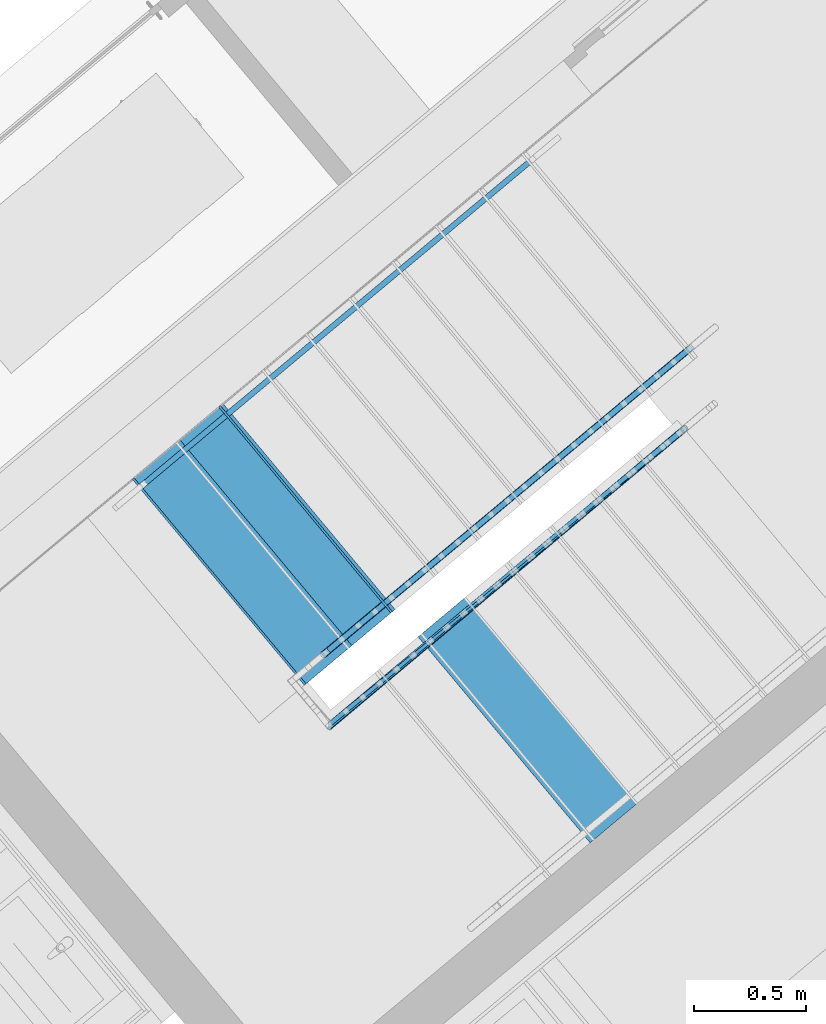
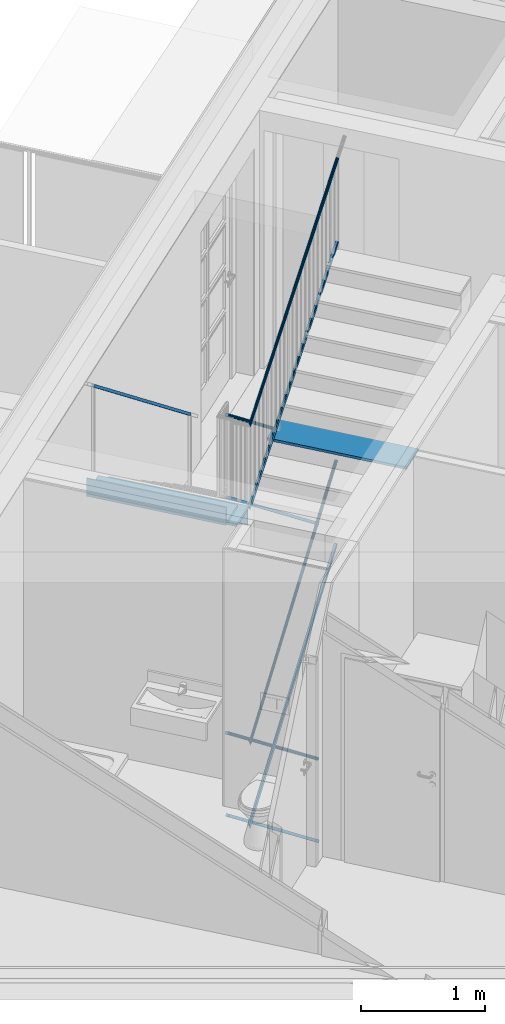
# One storey, part 34 of 75: 14 building element parts, 4 elements without a shape of their own.
"""IFC4 building model written with IfcOpenShell, lengths in metres."""

from ifc_helpers import new_model, entity, si_unit, converted_unit, derived_unit, direction, frame, origin_with_axes, place, context, subcontext, project, spatial, polygons, material, type_object, element, aggregate, save


model = new_model("IFC4")

# Units and contexts
model_context = context("Model", 3, precision=1e-05, world=origin_with_axes(), true_north=direction((0.0, 1.0)))
body_context = subcontext(model_context, "Body", "Model", "MODEL_VIEW")
ifc_project = project(units=[si_unit("LENGTHUNIT", "METRE"), si_unit("AREAUNIT", "SQUARE_METRE"), si_unit("VOLUMEUNIT", "CUBIC_METRE"), converted_unit("PLANEANGLEUNIT", "DEGREE", entity("IfcPlaneAngleMeasure", 0.0174532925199), si_unit("PLANEANGLEUNIT", "RADIAN"), dimensions=[0, 0, 0, 0, 0, 0, 0]), converted_unit("TIMEUNIT", "Year", entity("IfcTimeMeasure", 31556926.0), si_unit("TIMEUNIT", "SECOND"), dimensions=[0, 0, 1, 0, 0, 0, 0]), si_unit("MASSUNIT", "GRAM", prefix="KILO"), si_unit("THERMODYNAMICTEMPERATUREUNIT", "DEGREE_CELSIUS"), si_unit("LUMINOUSINTENSITYUNIT", "LUMEN"), si_unit("ENERGYUNIT", "JOULE", prefix="MEGA"), derived_unit("THERMALCONDUCTANCEUNIT", [(si_unit("POWERUNIT", "WATT"), 1), (si_unit("LENGTHUNIT", "METRE"), -1), (si_unit("THERMODYNAMICTEMPERATUREUNIT", "KELVIN"), -1)]), derived_unit("SPECIFICHEATCAPACITYUNIT", [(si_unit("ENERGYUNIT", "JOULE"), 1), (si_unit("MASSUNIT", "GRAM", prefix="KILO"), -1), (si_unit("THERMODYNAMICTEMPERATUREUNIT", "KELVIN"), -1)]), derived_unit("MASSDENSITYUNIT", [(si_unit("MASSUNIT", "GRAM", prefix="KILO"), 1), (si_unit("VOLUMEUNIT", "CUBIC_METRE"), -1)])], contexts=[model_context])

# Site, building, storey, space
site_placement = place(None, frame((-0.00153261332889, -0.00661245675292, 0.0), z_axis=(0.0, 0.0, 1.0), x_axis=(1.0, 0.0, 0.0)))
site = spatial("IfcSite", under=ifc_project, at=site_placement, Name="Gelände", CompositionType="ELEMENT")
building_placement = place(site_placement, origin_with_axes())
building = spatial("IfcBuilding", under=site, at=building_placement, Name="Gebäude", CompositionType="ELEMENT")
storey_placement = place(building_placement, frame((0.0, 0.0, -0.22), z_axis=(0.0, 0.0, 1.0), x_axis=(1.0, 0.0, 0.0)))
storey = spatial("IfcBuildingStorey", under=building, at=storey_placement, Name="EG", CompositionType="ELEMENT", Elevation=-0.22)
space_1_placement = place(storey_placement, frame((-1.16508896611, 24.7530172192, 0.22), z_axis=(0.0, 0.0, 1.0), x_axis=(0.641170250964, -0.76739866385, 0.0)))
space_1 = spatial("IfcSpace", under=storey, at=space_1_placement, CompositionType="ELEMENT", PredefinedType="NOTDEFINED")

# Railing, building element parts
railing_type = type_object("IfcRailingType", Name="Geländerart", PredefinedType="NOTDEFINED")
railing_1_placement = place(space_1_placement, frame((1.19553434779, -1.19750858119e-08, -0.17), z_axis=(0.0, 0.0, 1.0), x_axis=(0.641170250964, 0.76739866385, 0.0)))
railing_1 = element("IfcRailing", 1, at=railing_1_placement, inside=space_1, type_object=railing_type, Name="Geländer - 001", PredefinedType="NOTDEFINED")
ifc_material = material(Name="BEKLEIDUNG")
building_element_part_1_placement = place(railing_1_placement, origin_with_axes())
building_element_part_1 = element("IfcBuildingElementPart", 2, at=building_element_part_1_placement, material=ifc_material, Name="BEKLEIDUNG", PredefinedType="NOTDEFINED", context=body_context, shape_type="Tessellation", body=[
    polygons([(-0.0295187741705, 0.0209453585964, 0.88817063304), (-0.0284358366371, 0.0221471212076, 0.890224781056), (-1.65968848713, -1.34078287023, 2.5475849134), (-1.66154123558, -1.34262781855, 2.54631289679), (-0.0308939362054, 0.0200933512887, 0.886116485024), (-0.0325195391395, 0.0196169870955, 0.884124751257), (-0.03434618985, 0.0195307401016, 0.88225594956), (-0.0363183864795, 0.0198372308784, 0.880566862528), (-0.0383762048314, 0.0205271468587, 0.879108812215), (-0.0404571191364, 0.0215795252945, 0.877926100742), (-0.0424979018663, 0.0229623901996, 0.877054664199), (-0.0444365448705, 0.0246337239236, 0.876520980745), (-0.0462141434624, 0.026542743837, 0.87634126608), (-0.0477766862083, 0.0286314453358, 0.876520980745), (-0.0490766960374, 0.030836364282, 0.877054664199), (-0.0500746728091, 0.0330905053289, 0.877926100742), (-0.050740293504, 0.0353253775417, 0.879108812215), (-0.0510533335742, 0.0374730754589, 0.880566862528), (-0.0510042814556, 0.0394683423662, 0.88225594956), (-0.0505946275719, 0.0412505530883, 0.884124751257), (-0.0498368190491, 0.0427655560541, 0.886116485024), (-0.0487538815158, 0.0439673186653, 0.88817063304), (-0.0473787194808, 0.0448193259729, 0.890224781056), (-0.0457531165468, 0.0452956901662, 0.892216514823), (-0.0439264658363, 0.04538193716, 0.89408531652), (-0.0419542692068, 0.0450754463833, 0.895774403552), (-0.0398964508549, 0.044385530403, 0.897232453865), (-0.0378155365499, 0.0433331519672, 0.898415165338), (-0.03577475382, 0.0419502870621, 0.899286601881), (-0.0338361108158, 0.0402789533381, 0.899820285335), (-0.0320585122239, 0.0383699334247, 0.9), (-0.030495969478, 0.0362812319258, 0.899820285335), (-0.0291959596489, 0.0340763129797, 0.899286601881), (-0.0281979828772, 0.0318221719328, 0.898415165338), (-0.0275323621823, 0.02958729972, 0.897232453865), (-0.0272193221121, 0.0274396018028, 0.895774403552), (-0.0272683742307, 0.0254443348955, 0.89408531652), (-0.0276780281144, 0.0236621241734, 0.892216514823), (-1.658184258, -1.33864422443, 2.54881828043), (-1.65707425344, -1.33627686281, 2.54997552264), (-1.65639220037, -1.33375271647, 2.55102147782), (-1.65615882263, -1.33114848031, 2.55192436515), (-1.65638121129, -1.32854328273, 2.55265675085), (-1.65705260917, -1.32601628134, 2.55319638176), (-1.6581526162, -1.3236442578, 2.55352686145), (-1.65964780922, -1.32149928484, 2.55363814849), (-1.66149275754, -1.31964653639, 2.55352686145), (-1.66363140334, -1.31814230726, 2.55319638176), (-1.66599876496, -1.31703230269, 2.55265675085), (-1.6685229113, -1.31635024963, 2.55192436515), (-1.67112714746, -1.31611687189, 2.55102147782), (-1.67373234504, -1.31633926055, 2.54997552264), (-1.67625934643, -1.31701065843, 2.54881828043), (-1.67863136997, -1.31811066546, 2.5475849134), (-1.68077634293, -1.31960585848, 2.54631289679), (-1.68262909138, -1.3214508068, 2.54504088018), (-1.68413332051, -1.3235894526, 2.54380751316), (-1.68524332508, -1.32595681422, 2.54265027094), (-1.68592537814, -1.32848096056, 2.54160431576), (-1.68615875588, -1.33108519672, 2.54070142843), (-1.68593636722, -1.3336903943, 2.53996904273), (-1.68526496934, -1.33621739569, 2.53942941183), (-1.68416496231, -1.33858941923, 2.53909893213), (-1.68266976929, -1.34073439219, 2.53898764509), (-1.68082482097, -1.34258714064, 2.53909893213), (-1.67868617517, -1.34409136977, 2.53942941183), (-1.67631881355, -1.34520137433, 2.53996904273), (-1.67379466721, -1.3458834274, 2.54070142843), (-1.67119043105, -1.34611680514, 2.54160431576), (-1.66858523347, -1.34589441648, 2.54265027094), (-1.66605823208, -1.3452230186, 2.54380751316), (-1.66368620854, -1.34412301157, 2.54504088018)], [[[1, 2, 3, 4]], [[1, 5, 6, 7, 8, 9, 10, 11, 12, 13, 14, 15, 16, 17, 18, 19, 20, 21, 22, 23, 24, 25, 26, 27, 28, 29, 30, 31, 32, 33, 34, 35, 36, 37, 38, 2]], [[2, 38, 39, 3]], [[4, 3, 39, 40, 41, 42, 43, 44, 45, 46, 47, 48, 49, 50, 51, 52, 53, 54, 55, 56, 57, 58, 59, 60, 61, 62, 63, 64, 65, 66, 67, 68, 69, 70, 71, 72]], [[5, 1, 4, 72]], [[6, 5, 72, 71]], [[7, 6, 71, 70]], [[8, 7, 70, 69]], [[9, 8, 69, 68]], [[10, 9, 68, 67]], [[11, 10, 67, 66]], [[12, 11, 66, 65]], [[13, 12, 65, 64]], [[14, 13, 64, 63]], [[15, 14, 63, 62]], [[16, 15, 62, 61]], [[17, 16, 61, 60]], [[18, 17, 60, 59]], [[19, 18, 59, 58]], [[20, 19, 58, 57]], [[21, 20, 57, 56]], [[22, 21, 56, 55]], [[23, 22, 55, 54]], [[24, 23, 54, 53]], [[25, 24, 53, 52]], [[26, 25, 52, 51]], [[27, 26, 51, 50]], [[28, 27, 50, 49]], [[29, 28, 49, 48]], [[30, 29, 48, 47]], [[31, 30, 47, 46]], [[32, 31, 46, 45]], [[33, 32, 45, 44]], [[34, 33, 44, 43]], [[35, 34, 43, 42]], [[36, 35, 42, 41]], [[37, 36, 41, 40]], [[38, 37, 40, 39]]], closed=True),
])
building_element_part_2_placement = place(railing_1_placement, origin_with_axes())
building_element_part_2 = element("IfcBuildingElementPart", 3, at=building_element_part_2_placement, material=ifc_material, Name="BEKLEIDUNG", PredefinedType="NOTDEFINED", context=body_context, shape_type="Tessellation", body=[
    polygons([(-0.0341749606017, 0.0528904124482, 0.0798578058), (-0.0459713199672, 0.0430344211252, 0.0601421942), (-1.67725492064, -1.31992142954, 1.71753377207), (-1.65806995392, -1.30389217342, 1.7297425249), (-0.0181457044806, 0.0337054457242, 0.0798578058), (-0.029942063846, 0.0238494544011, 0.0601421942), (-1.66122566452, -1.33910639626, 1.71753377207), (-1.6420406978, -1.32307714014, 1.7297425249)], [[[1, 2, 3, 4]], [[1, 5, 6, 2]], [[2, 6, 7, 3]], [[4, 3, 7, 8]], [[5, 1, 4, 8]], [[6, 5, 8, 7]]], closed=True),
])
building_element_part_3_placement = place(railing_1_placement, origin_with_axes())
building_element_part_3 = element("IfcBuildingElementPart", 4, at=building_element_part_3_placement, material=ifc_material, Name="BEKLEIDUNG", PredefinedType="NOTDEFINED", context=body_context, shape_type="Tessellation", body=[
    polygons([(-1.63742845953, -1.63075810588, 2.62537536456), (-1.63846858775, -1.63088446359, 2.62789734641), (-0.0630386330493, -0.30687497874, 3.89943593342), (-1.63648900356, -1.63122206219, 2.62285338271), (-1.63567876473, -1.63226223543, 2.62040803), (-1.63502236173, -1.63384702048, 2.61811360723), (-1.63453973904, -1.63592826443, 2.61603982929), (-1.63424556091, -1.63844272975, 2.61424970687), (-1.63414876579, -1.64131401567, 2.61279763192), (-1.63425229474, -1.64445487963, 2.61172772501), (-1.63455300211, -1.64776988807, 2.61107249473), (-1.63504175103, -1.65115831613, 2.61085184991), (-1.63570369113, -1.65451720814, 2.61107249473), (-1.63651870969, -1.65774450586, 2.61172772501), (-1.63746204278, -1.66074214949, 2.61279763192), (-1.63850502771, -1.66341905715, 2.61424970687), (-1.63961597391, -1.66569389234, 2.61603982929), (-1.64076112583, -1.66749753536, 2.61811360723), (-1.64190568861, -1.66877518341, 2.62040803), (-1.64301488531, -1.66948801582, 2.62285338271), (-1.64405501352, -1.66961437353, 2.62537536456), (-1.64499446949, -1.66915041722, 2.62789734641), (-1.64580470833, -1.66811024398, 2.63034269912), (-1.64646111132, -1.66652545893, 2.63263712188), (-1.64694373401, -1.66444421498, 2.63471089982), (-1.64723791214, -1.66192974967, 2.63650102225), (-1.64733470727, -1.65905846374, 2.6379530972), (-1.64723117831, -1.65591759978, 2.6390230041), (-1.64693047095, -1.65260259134, 2.63967823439), (-1.64644172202, -1.64921416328, 2.63989887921), (-1.64577978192, -1.64585527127, 2.63967823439), (-1.64496476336, -1.64262797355, 2.6390230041), (-1.64402143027, -1.63963032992, 2.6379530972), (-1.64297844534, -1.63695342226, 2.63650102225), (-1.64186749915, -1.63467858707, 2.63471089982), (-1.64072234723, -1.63287494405, 2.63263712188), (-1.63957778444, -1.631597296, 2.63034269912), (-0.0636185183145, -0.30824141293, 3.90158839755), (-0.0621391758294, -0.305826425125, 3.89721601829), (-0.0609474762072, -0.305127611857, 3.89499610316), (-0.0594997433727, -0.304799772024, 3.89284363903), (-0.0578399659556, -0.304852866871, 3.89082402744), (-0.0560185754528, -0.305285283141, 3.88899863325), (-0.054090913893, -0.306083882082, 3.88742292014), (-0.0521155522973, -0.30722439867, 3.88614476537), (-0.0501525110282, -0.308672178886, 3.88520300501), (-0.0482614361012, -0.310383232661, 3.88462625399), (-0.0464997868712, -0.312305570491, 3.88443203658), (-0.0449210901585, -0.314380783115, 3.88462625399), (-0.043573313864, -0.316545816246, 3.88520300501), (-0.0424974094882, -0.318734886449, 3.88614476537), (-0.0417260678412, -0.320881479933, 3.88742292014), (-0.0412827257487, -0.322920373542, 3.88899863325), (-0.0411808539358, -0.324789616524, 3.89082402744), (-0.041423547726, -0.326432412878, 3.89284363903), (-0.0420034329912, -0.327798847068, 3.89499610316), (-0.0429028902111, -0.328847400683, 3.89721601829), (-0.0440945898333, -0.329546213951, 3.89943593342), (-0.0455423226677, -0.329874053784, 3.90158839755), (-0.0472021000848, -0.329820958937, 3.90360800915), (-0.0490234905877, -0.329388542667, 3.90543340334), (-0.0509511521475, -0.328589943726, 3.90700911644), (-0.0529265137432, -0.327449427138, 3.90828727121), (-0.0548895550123, -0.326001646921, 3.90922903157), (-0.0567806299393, -0.324290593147, 3.90980578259), (-0.0585422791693, -0.322368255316, 3.91), (-0.0601209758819, -0.320293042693, 3.90980578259), (-0.0614687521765, -0.318128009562, 3.90922903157), (-0.0625446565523, -0.315938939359, 3.90828727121), (-0.0633159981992, -0.313792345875, 3.90700911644), (-0.0637593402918, -0.311753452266, 3.90543340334), (-0.0638612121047, -0.309884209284, 3.90360800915)], [[[1, 2, 3]], [[1, 4, 5, 6, 7, 8, 9, 10, 11, 12, 13, 14, 15, 16, 17, 18, 19, 20, 21, 22, 23, 24, 25, 26, 27, 28, 29, 30, 31, 32, 33, 34, 35, 36, 37, 2]], [[2, 38, 3]], [[1, 3, 39]], [[4, 1, 39]], [[5, 4, 40]], [[6, 5, 41]], [[7, 6, 42]], [[8, 7, 43]], [[9, 8, 44]], [[10, 9, 45]], [[11, 10, 46]], [[12, 11, 47]], [[13, 12, 48]], [[14, 13, 49]], [[15, 14, 50]], [[16, 15, 51]], [[17, 16, 52]], [[18, 17, 53]], [[19, 18, 54]], [[20, 19, 55]], [[21, 20, 56]], [[22, 21, 57]], [[23, 22, 58]], [[24, 23, 59]], [[25, 24, 60]], [[26, 25, 61]], [[27, 26, 62]], [[28, 27, 63]], [[29, 28, 64]], [[30, 29, 65]], [[31, 30, 66]], [[32, 31, 67]], [[33, 32, 68]], [[34, 33, 69]], [[35, 34, 70]], [[36, 35, 71]], [[37, 36, 72]], [[2, 37, 38]], [[39, 3, 38, 72, 71, 70, 69, 68, 67, 66, 65, 64, 63, 62, 61, 60, 59, 58, 57, 56, 55, 54, 53, 52, 51, 50, 49, 48, 47, 46, 45, 44, 43, 42, 41, 40]], [[4, 39, 40]], [[5, 40, 41]], [[6, 41, 42]], [[7, 42, 43]], [[8, 43, 44]], [[9, 44, 45]], [[10, 45, 46]], [[11, 46, 47]], [[12, 47, 48]], [[13, 48, 49]], [[14, 49, 50]], [[15, 50, 51]], [[16, 51, 52]], [[17, 52, 53]], [[18, 53, 54]], [[19, 54, 55]], [[20, 55, 56]], [[21, 56, 57]], [[22, 57, 58]], [[23, 58, 59]], [[24, 59, 60]], [[25, 60, 61]], [[26, 61, 62]], [[27, 62, 63]], [[28, 63, 64]], [[29, 64, 65]], [[30, 65, 66]], [[31, 66, 67]], [[32, 67, 68]], [[33, 68, 69]], [[34, 69, 70]], [[35, 70, 71]], [[36, 71, 72]], [[37, 72, 38]]], closed=True),
])
building_element_part_4_placement = place(railing_1_placement, origin_with_axes())
building_element_part_4 = element("IfcBuildingElementPart", 5, at=building_element_part_4_placement, material=ifc_material, Name="BEKLEIDUNG", PredefinedType="NOTDEFINED", context=body_context, shape_type="Tessellation", body=[
    polygons([(-1.6539527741, -1.66459421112, 1.82200180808), (-1.64445279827, -1.66621433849, 1.79779595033), (-0.0455094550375, -0.327767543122, 3.06934668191), (-1.64843064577, -1.63221398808, 1.82200180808), (-1.63893066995, -1.63383411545, 1.79779595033), (-0.0615396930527, -0.308583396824, 3.06934668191), (-0.0555448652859, -0.336153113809, 3.09065331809), (-0.0715751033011, -0.316968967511, 3.09065331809)], [[[1, 2, 3]], [[1, 4, 5, 2]], [[2, 6, 3]], [[1, 3, 7]], [[4, 1, 7]], [[5, 4, 8]], [[2, 5, 6]], [[7, 3, 6, 8]], [[4, 7, 8]], [[5, 8, 6]]], closed=True),
])
aggregate(railing_1, [building_element_part_1, building_element_part_2, building_element_part_3, building_element_part_4])

# Railing, building element part
railing_2_placement = place(space_1_placement, frame((-0.00446565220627, -2.37996111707e-09, -0.17), z_axis=(0.0, 0.0, 1.0), x_axis=(0.641170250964, 0.76739866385, 0.0)))
railing_2 = element("IfcRailing", 6, at=railing_2_placement, inside=space_1, type_object=railing_type, Name="Geländer - 001", PredefinedType="NOTDEFINED")
building_element_part_5_placement = place(railing_2_placement, origin_with_axes())
building_element_part_5 = element("IfcBuildingElementPart", 7, at=building_element_part_5_placement, material=ifc_material, Name="BEKLEIDUNG", PredefinedType="NOTDEFINED", context=body_context, shape_type="Tessellation", body=[
    polygons([(0.0240438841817, -0.0287774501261, 0.9), (0.0122290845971, -0.0386488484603, 0.880303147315), (-1.72609254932, -1.49103618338, 2.65089138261), (-1.71427774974, -1.48116478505, 2.67058823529), (0.0400731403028, -0.0479624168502, 0.9), (0.0282583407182, -0.0578338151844, 0.880303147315), (-1.7100632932, -1.5102211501, 2.65089138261), (-1.69824849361, -1.50034975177, 2.67058823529)], [[[1, 2, 3, 4]], [[1, 5, 6, 2]], [[2, 6, 7, 3]], [[4, 3, 7, 8]], [[5, 1, 4, 8]], [[6, 5, 8, 7]]], closed=True),
])
aggregate(railing_2, [building_element_part_5])

# Railing, building element parts
railing_3_placement = place(space_1_placement, frame((1.1955343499, 0.255237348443, -3.3), z_axis=(0.0, 0.0, 1.0), x_axis=(0.641170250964, 0.76739866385, 0.0)))
railing_3 = element("IfcRailing", 8, at=railing_3_placement, inside=space_1, type_object=railing_type, Name="Geländer - 001", PredefinedType="NOTDEFINED")
building_element_part_6_placement = place(railing_3_placement, origin_with_axes())
building_element_part_6 = element("IfcBuildingElementPart", 9, at=building_element_part_6_placement, material=ifc_material, Name="BEKLEIDUNG", PredefinedType="NOTDEFINED", context=body_context, shape_type="Tessellation", body=[
    polygons([(-0.225377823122, -0.142697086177, 0.88816072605), (-0.224296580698, -0.141496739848, 0.890216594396), (-1.85555729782, -1.50443347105, 2.54391411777), (-1.85741004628, -1.50627841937, 2.54264036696), (-0.226751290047, -0.143547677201, 0.886104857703), (-0.228375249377, -0.144022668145, 0.884111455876), (-0.230200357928, -0.144107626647, 0.882241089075), (-0.232171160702, -0.143799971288, 0.880550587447), (-0.234227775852, -0.143109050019, 0.87909131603), (-0.236307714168, -0.142055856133, 0.877907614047), (-0.238347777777, -0.140672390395, 0.877035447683), (-0.240285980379, -0.139000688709, 0.876501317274), (-0.242063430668, -0.137091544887, 0.8763214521), (-0.243626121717, -0.135002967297, 0.876501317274), (-0.244926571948, -0.132798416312, 0.877035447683), (-0.24592526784, -0.130544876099, 0.877907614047), (-0.246591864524, -0.128310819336, 0.87909131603), (-0.246906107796, -0.126164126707, 0.880550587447), (-0.246858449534, -0.124170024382, 0.882241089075), (-0.246450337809, -0.122389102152, 0.884111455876), (-0.245694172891, -0.120875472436, 0.886104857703), (-0.244612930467, -0.119675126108, 0.88816072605), (-0.243239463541, -0.118824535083, 0.890216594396), (-0.241615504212, -0.11834954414, 0.892209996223), (-0.23979039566, -0.118264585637, 0.894080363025), (-0.237819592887, -0.118572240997, 0.895770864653), (-0.235762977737, -0.119263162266, 0.89723013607), (-0.233683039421, -0.120316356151, 0.898413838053), (-0.231642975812, -0.12169982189, 0.899286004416), (-0.22970477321, -0.123371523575, 0.899820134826), (-0.227927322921, -0.125280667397, 0.9), (-0.226364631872, -0.127369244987, 0.899820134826), (-0.225064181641, -0.129573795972, 0.899286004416), (-0.224065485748, -0.131827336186, 0.898413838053), (-0.223398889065, -0.134061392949, 0.89723013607), (-0.223084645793, -0.136208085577, 0.895770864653), (-0.223132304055, -0.138202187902, 0.894080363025), (-0.223540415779, -0.139983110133, 0.892209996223), (-1.8540530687, -1.50229482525, 2.5451491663), (-1.85294306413, -1.49992746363, 2.54630798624), (-1.85226101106, -1.49740331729, 2.54735536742), (-1.85202763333, -1.49479908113, 2.5482594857), (-1.85225002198, -1.49219388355, 2.5489928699), (-1.85292141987, -1.48966688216, 2.54953323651), (-1.8540214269, -1.48729485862, 2.54986416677), (-1.85551661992, -1.48514988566, 2.54997560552), (-1.85736156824, -1.48329713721, 2.54986416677), (-1.85950021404, -1.48179290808, 2.54953323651), (-1.86186757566, -1.48068290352, 2.5489928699), (-1.864391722, -1.48000085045, 2.5482594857), (-1.86699595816, -1.47976747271, 2.54735536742), (-1.86960115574, -1.47998986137, 2.54630798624), (-1.87212815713, -1.48066125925, 2.5451491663), (-1.87450018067, -1.48176126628, 2.54391411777), (-1.87664515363, -1.4832564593, 2.54264036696), (-1.87849790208, -1.48510140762, 2.54136661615), (-1.88000213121, -1.48724005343, 2.54013156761), (-1.88111213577, -1.48960741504, 2.53897274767), (-1.88179418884, -1.49213156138, 2.53792536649), (-1.88202756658, -1.49473579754, 2.53702124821), (-1.88180517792, -1.49734099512, 2.53628786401), (-1.88113378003, -1.49986799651, 2.5357474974), (-1.880033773, -1.50224002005, 2.53541656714), (-1.87853857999, -1.50438499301, 2.53530512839), (-1.87669363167, -1.50623774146, 2.53541656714), (-1.87455498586, -1.50774197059, 2.5357474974), (-1.87218762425, -1.50885197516, 2.53628786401), (-1.86966347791, -1.50953402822, 2.53702124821), (-1.86705924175, -1.50976740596, 2.53792536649), (-1.86445404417, -1.5095450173, 2.53897274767), (-1.86192704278, -1.50887361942, 2.54013156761), (-1.85955501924, -1.50777361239, 2.54136661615)], [[[1, 2, 3, 4]], [[1, 5, 6, 7, 8, 9, 10, 11, 12, 13, 14, 15, 16, 17, 18, 19, 20, 21, 22, 23, 24, 25, 26, 27, 28, 29, 30, 31, 32, 33, 34, 35, 36, 37, 38, 2]], [[2, 38, 39, 3]], [[4, 3, 39, 40, 41, 42, 43, 44, 45, 46, 47, 48, 49, 50, 51, 52, 53, 54, 55, 56, 57, 58, 59, 60, 61, 62, 63, 64, 65, 66, 67, 68, 69, 70, 71, 72]], [[5, 1, 4, 72]], [[6, 5, 72, 71]], [[7, 6, 71, 70]], [[8, 7, 70, 69]], [[9, 8, 69, 68]], [[10, 9, 68, 67]], [[11, 10, 67, 66]], [[12, 11, 66, 65]], [[13, 12, 65, 64]], [[14, 13, 64, 63]], [[15, 14, 63, 62]], [[16, 15, 62, 61]], [[17, 16, 61, 60]], [[18, 17, 60, 59]], [[19, 18, 59, 58]], [[20, 19, 58, 57]], [[21, 20, 57, 56]], [[22, 21, 56, 55]], [[23, 22, 55, 54]], [[24, 23, 54, 53]], [[25, 24, 53, 52]], [[26, 25, 52, 51]], [[27, 26, 51, 50]], [[28, 27, 50, 49]], [[29, 28, 49, 48]], [[30, 29, 48, 47]], [[31, 30, 47, 46]], [[32, 31, 46, 45]], [[33, 32, 45, 44]], [[34, 33, 44, 43]], [[35, 34, 43, 42]], [[36, 35, 42, 41]], [[37, 36, 41, 40]], [[38, 37, 40, 39]]], closed=True),
])
building_element_part_7_placement = place(railing_3_placement, origin_with_axes())
building_element_part_7 = element("IfcBuildingElementPart", 10, at=building_element_part_7_placement, material=ifc_material, Name="BEKLEIDUNG", PredefinedType="NOTDEFINED", context=body_context, shape_type="Tessellation", body=[
    polygons([(-0.230051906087, -0.110766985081, 0.0798660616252), (-0.241831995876, -0.120609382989, 0.0601339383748), (-1.87312373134, -1.48357203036, 1.71386290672), (-1.85393876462, -1.46754277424, 1.72608830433), (-0.214022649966, -0.129951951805, 0.0798660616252), (-0.225802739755, -0.139794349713, 0.0601339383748), (-1.85709447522, -1.50275699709, 1.71386290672), (-1.8379095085, -1.48672774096, 1.72608830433)], [[[1, 2, 3, 4]], [[1, 5, 6, 2]], [[2, 6, 7, 3]], [[4, 3, 7, 8]], [[5, 1, 4, 8]], [[6, 5, 8, 7]]], closed=True),
])
building_element_part_8_placement = place(railing_3_placement, origin_with_axes())
building_element_part_8 = element("IfcBuildingElementPart", 11, at=building_element_part_8_placement, material=ifc_material, Name="BEKLEIDUNG", PredefinedType="NOTDEFINED", context=body_context, shape_type="Tessellation", body=[
    polygons([(-1.8322830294, -1.79508964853, 2.61672621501), (-1.83344295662, -1.79516516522, 2.61923212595), (-0.280788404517, -0.488809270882, 4.06989400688), (-1.83123457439, -1.79559152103, 2.61422030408), (-1.83032944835, -1.79665553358, 2.61179053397), (-1.82959515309, -1.7982493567, 2.60951073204), (-1.8290539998, -1.80032456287, 2.60745016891), (-1.82872243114, -1.80281809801, 2.60567145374), (-1.82861052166, -1.80565419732, 2.6042286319), (-1.82872167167, -1.80874668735, 2.6031655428), (-1.82905250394, -1.81200160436, 2.60251448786), (-1.8295929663, -1.81532004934, 2.60229524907), (-1.83032663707, -1.81860119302, 2.60251448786), (-1.83123122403, -1.82174533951, 2.6031655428), (-1.83227924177, -1.82465695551, 2.6042286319), (-1.8334388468, -1.82724757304, 2.60567145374), (-1.8346748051, -1.8294384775, 2.60745016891), (-1.83594956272, -1.83116309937, 2.60951073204), (-1.83722438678, -1.83236903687, 2.61179053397), (-1.8384605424, -1.83301964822, 2.61422030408), (-1.83962046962, -1.83309516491, 2.61672621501), (-1.84066892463, -1.83259329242, 2.61923212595), (-1.84157405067, -1.83152927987, 2.62166189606), (-1.84230834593, -1.82993545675, 2.62394169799), (-1.84284949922, -1.82786025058, 2.62600226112), (-1.84318106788, -1.82536671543, 2.62778097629), (-1.84329297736, -1.82253061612, 2.62922379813), (-1.84318182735, -1.81943812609, 2.63028688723), (-1.84285099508, -1.81618320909, 2.63093794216), (-1.84231053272, -1.81286476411, 2.63115718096), (-1.84157686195, -1.80958362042, 2.63093794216), (-1.84067227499, -1.80643947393, 2.63028688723), (-1.83962425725, -1.80352785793, 2.62922379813), (-1.83846465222, -1.8009372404, 2.62778097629), (-1.83722869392, -1.79874633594, 2.62600226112), (-1.8359539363, -1.79702171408, 2.62394169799), (-1.83467911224, -1.79581577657, 2.62166189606), (-0.281476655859, -0.49026625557, 4.071953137), (-0.279777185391, -0.48766732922, 4.06777035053), (-0.278473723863, -0.486875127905, 4.06564669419), (-0.276917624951, -0.486456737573, 4.06358756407), (-0.275156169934, -0.486424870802, 4.0616555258), (-0.273242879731, -0.486780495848, 4.05990928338), (-0.271235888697, -0.487512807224, 4.05840189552), (-0.269196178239, -0.488599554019, 4.05717916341), (-0.267185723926, -0.490007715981, 4.05627823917), (-0.265265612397, -0.491694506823, 4.05572649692), (-0.263494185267, -0.493608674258, 4.05554070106), (-0.261925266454, -0.495692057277, 4.05572649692), (-0.260606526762, -0.497881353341, 4.05627823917), (-0.25957803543, -0.500110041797, 4.05717916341), (-0.258871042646, -0.502310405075, 4.05840189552), (-0.258507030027, -0.504415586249, 4.05990928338), (-0.258497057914, -0.506361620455, 4.0616555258), (-0.258841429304, -0.508089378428, 4.06358756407), (-0.259529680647, -0.509546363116, 4.06564669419), (-0.260540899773, -0.510688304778, 4.06777035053), (-0.261844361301, -0.511480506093, 4.06989400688), (-0.263400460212, -0.511898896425, 4.071953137), (-0.265161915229, -0.511930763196, 4.07388517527), (-0.267075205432, -0.51157513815, 4.07563141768), (-0.269082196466, -0.510842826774, 4.07713880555), (-0.271121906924, -0.509756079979, 4.07836153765), (-0.273132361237, -0.508347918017, 4.07926246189), (-0.275052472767, -0.506661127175, 4.07981420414), (-0.276823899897, -0.50474695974, 4.08), (-0.278392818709, -0.502663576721, 4.07981420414), (-0.279711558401, -0.500474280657, 4.07926246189), (-0.280740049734, -0.498245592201, 4.07836153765), (-0.281447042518, -0.496045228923, 4.07713880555), (-0.281811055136, -0.493940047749, 4.07563141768), (-0.281821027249, -0.491994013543, 4.07388517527)], [[[1, 2, 3]], [[1, 4, 5, 6, 7, 8, 9, 10, 11, 12, 13, 14, 15, 16, 17, 18, 19, 20, 21, 22, 23, 24, 25, 26, 27, 28, 29, 30, 31, 32, 33, 34, 35, 36, 37, 2]], [[2, 38, 3]], [[1, 3, 39]], [[4, 1, 39]], [[5, 4, 40]], [[6, 5, 41]], [[7, 6, 42]], [[8, 7, 43]], [[9, 8, 44]], [[10, 9, 45]], [[11, 10, 46]], [[12, 11, 47]], [[13, 12, 48]], [[14, 13, 49]], [[15, 14, 50]], [[16, 15, 51]], [[17, 16, 52]], [[18, 17, 53]], [[19, 18, 54]], [[20, 19, 55]], [[21, 20, 56]], [[22, 21, 57]], [[23, 22, 58]], [[24, 23, 59]], [[25, 24, 60]], [[26, 25, 61]], [[27, 26, 62]], [[28, 27, 63]], [[29, 28, 64]], [[30, 29, 65]], [[31, 30, 66]], [[32, 31, 67]], [[33, 32, 68]], [[34, 33, 69]], [[35, 34, 70]], [[36, 35, 71]], [[37, 36, 72]], [[2, 37, 38]], [[39, 3, 38, 72, 71, 70, 69, 68, 67, 66, 65, 64, 63, 62, 61, 60, 59, 58, 57, 56, 55, 54, 53, 52, 51, 50, 49, 48, 47, 46, 45, 44, 43, 42, 41, 40]], [[4, 39, 40]], [[5, 40, 41]], [[6, 41, 42]], [[7, 42, 43]], [[8, 43, 44]], [[9, 44, 45]], [[10, 45, 46]], [[11, 46, 47]], [[12, 47, 48]], [[13, 48, 49]], [[14, 49, 50]], [[15, 50, 51]], [[16, 51, 52]], [[17, 52, 53]], [[18, 53, 54]], [[19, 54, 55]], [[20, 55, 56]], [[21, 56, 57]], [[22, 57, 58]], [[23, 58, 59]], [[24, 59, 60]], [[25, 60, 61]], [[26, 61, 62]], [[27, 62, 63]], [[28, 63, 64]], [[29, 64, 65]], [[30, 65, 66]], [[31, 66, 67]], [[32, 67, 68]], [[33, 68, 69]], [[34, 69, 70]], [[35, 70, 71]], [[36, 71, 72]], [[37, 72, 38]]], closed=True),
])
building_element_part_9_placement = place(railing_3_placement, origin_with_axes())
building_element_part_9 = element("IfcBuildingElementPart", 12, at=building_element_part_9_placement, material=ifc_material, Name="BEKLEIDUNG", PredefinedType="NOTDEFINED", context=body_context, shape_type="Tessellation", body=[
    polygons([(-1.85066678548, -1.82767736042, 1.81318298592), (-1.84006881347, -1.82972343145, 1.78913137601), (-0.263254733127, -0.509698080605, 3.23980862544), (-1.84455225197, -1.79600609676, 1.81318298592), (-1.83395427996, -1.79805216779, 1.78913137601), (-0.279284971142, -0.490513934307, 3.23980862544), (-0.274362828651, -0.518979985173, 3.26019137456), (-0.290393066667, -0.499795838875, 3.26019137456)], [[[1, 2, 3]], [[1, 4, 5, 2]], [[2, 6, 3]], [[1, 3, 7]], [[4, 1, 7]], [[5, 4, 8]], [[2, 5, 6]], [[7, 3, 6, 8]], [[4, 7, 8]], [[5, 8, 6]]], closed=True),
])
aggregate(railing_3, [building_element_part_6, building_element_part_7, building_element_part_8, building_element_part_9])

# Space
space_2_placement = place(storey_placement, frame((0.257887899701, 22.6119986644, 0.22), z_axis=(0.0, 0.0, 1.0), x_axis=(-0.641204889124, 0.767369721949, 0.0)))
space_2 = spatial("IfcSpace", under=storey, at=space_2_placement, CompositionType="ELEMENT", PredefinedType="NOTDEFINED")

# Stair, building element parts
stair_type = type_object("IfcStairType", Name="Treppentyp", PredefinedType="NOTDEFINED")
stair_placement = place(space_2_placement, frame((2.55982666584, -0.536119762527, -0.17), z_axis=(0.0, 0.0, 1.0), x_axis=(-0.641204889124, -0.767369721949, 0.0)))
stair = element("IfcStair", 13, at=stair_placement, inside=space_2, type_object=stair_type, Name="Treppe - 001", PredefinedType="NOTDEFINED")
building_element_part_10_placement = place(stair_placement, origin_with_axes())
building_element_part_10 = element("IfcBuildingElementPart", 14, at=building_element_part_10_placement, material=ifc_material, Name="BEKLEIDUNG", PredefinedType="NOTDEFINED", context=body_context, shape_type="Tessellation", body=[
    polygons([(-1.55940773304, -1.30290275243, 1.39147058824), (-1.56708171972, -1.30931445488, 1.39147058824), (-0.797677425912, -2.23019285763, 1.39147058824), (-0.790003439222, -2.22378115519, 1.39147058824), (-1.55940773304, -1.30290275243, 1.23941176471), (-1.56708171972, -1.30931445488, 1.23941176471), (-0.797677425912, -2.23019285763, 1.23941176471), (-0.790003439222, -2.22378115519, 1.23941176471)], [[[1, 2, 3, 4]], [[1, 5, 6, 2]], [[2, 6, 7, 3]], [[4, 3, 7, 8]], [[5, 1, 4, 8]], [[6, 5, 8, 7]]], closed=True),
])
building_element_part_11_placement = place(stair_placement, origin_with_axes())
building_element_part_11 = element("IfcBuildingElementPart", 15, at=building_element_part_11_placement, material=ifc_material, Name="BEKLEIDUNG", PredefinedType="NOTDEFINED", context=body_context, shape_type="Tessellation", body=[
    polygons([(-1.94570143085, -1.62565549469, 1.74558823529), (-1.95337541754, -1.63206719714, 1.74558823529), (-1.18397112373, -2.55294559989, 1.74558823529), (-1.17629713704, -2.54653389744, 1.74558823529), (-1.94570143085, -1.62565549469, 1.59352941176), (-1.95337541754, -1.63206719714, 1.59352941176), (-1.18397112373, -2.55294559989, 1.59352941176), (-1.17629713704, -2.54653389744, 1.59352941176)], [[[1, 2, 3, 4]], [[1, 5, 6, 2]], [[2, 6, 7, 3]], [[4, 3, 7, 8]], [[5, 1, 4, 8]], [[6, 5, 8, 7]]], closed=True),
])
building_element_part_12_placement = place(stair_placement, origin_with_axes())
building_element_part_12 = element("IfcBuildingElementPart", 16, at=building_element_part_12_placement, material=ifc_material, Name="BEKLEIDUNG", PredefinedType="NOTDEFINED", context=body_context, shape_type="Tessellation", body=[
    polygons([(-0.778492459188, -2.21416360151, 1.39147058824), (-1.547896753, -1.29328519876, 1.39147058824), (-1.547896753, -1.29328519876, 1.41647058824), (-0.778492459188, -2.21416360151, 1.41647058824), (-0.99082427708, -2.39156923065, 1.39147058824), (-1.76022856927, -1.47069082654, 1.39147058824), (-1.76022856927, -1.47069082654, 1.41647058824), (-0.99082427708, -2.39156923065, 1.41647058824)], [[[1, 2, 3, 4]], [[1, 5, 6, 2]], [[2, 6, 7, 3]], [[4, 3, 7, 8]], [[5, 1, 4, 8]], [[6, 5, 8, 7]]], closed=True),
])
building_element_part_13_placement = place(stair_placement, origin_with_axes())
building_element_part_13 = element("IfcBuildingElementPart", 17, at=building_element_part_13_placement, material=ifc_material, Name="BEKLEIDUNG", PredefinedType="NOTDEFINED", context=body_context, shape_type="Tessellation", body=[
    polygons([(-0.971639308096, -2.37553997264, 1.56852941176), (-1.74104360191, -1.45466156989, 1.56852941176), (-1.74104360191, -1.45466156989, 1.59352941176), (-0.971639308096, -2.37553997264, 1.59352941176), (-1.16478615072, -2.53691633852, 1.56852941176), (-1.18397113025, -2.55294559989, 1.56852941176), (-1.95337541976, -1.63206719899, 1.56852941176), (-1.93419045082, -1.61603794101, 1.56852941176), (-1.93419045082, -1.61603794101, 1.59352941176), (-1.95337541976, -1.63206719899, 1.59352941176), (-1.18397113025, -2.55294559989, 1.59352941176), (-1.16478615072, -2.53691633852, 1.59352941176)], [[[1, 2, 3, 4]], [[1, 5, 6, 7, 8, 2]], [[2, 8, 9, 3]], [[4, 3, 9, 10, 11, 12]], [[5, 1, 4, 12]], [[6, 5, 12, 11]], [[7, 6, 11, 10]], [[8, 7, 10, 9]]], closed=True),
])
building_element_part_14_placement = place(stair_placement, origin_with_axes())
building_element_part_14 = element("IfcBuildingElementPart", 18, at=building_element_part_14_placement, material=ifc_material, Name="BEKLEIDUNG", PredefinedType="NOTDEFINED", context=body_context, shape_type="Tessellation", body=[
    polygons([(-0.675898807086, -2.33684650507, 2.09970588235), (0.093552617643, -3.25768552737, 2.09970588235), (0.093552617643, -3.25768552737, 2.12470588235), (-0.675898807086, -2.33684650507, 2.12470588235), (-0.463576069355, -2.15943000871, 2.09970588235), (0.305875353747, -3.08026903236, 2.09970588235), (0.305875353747, -3.08026903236, 2.12470588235), (-0.463576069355, -2.15943000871, 2.12470588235)], [[[1, 2, 3, 4]], [[1, 5, 6, 2]], [[2, 6, 7, 3]], [[4, 3, 7, 8]], [[5, 1, 4, 8]], [[6, 5, 8, 7]]], closed=True),
])
aggregate(stair, [building_element_part_10, building_element_part_11, building_element_part_12, building_element_part_13, building_element_part_14])

save(model, "model.ifc")
